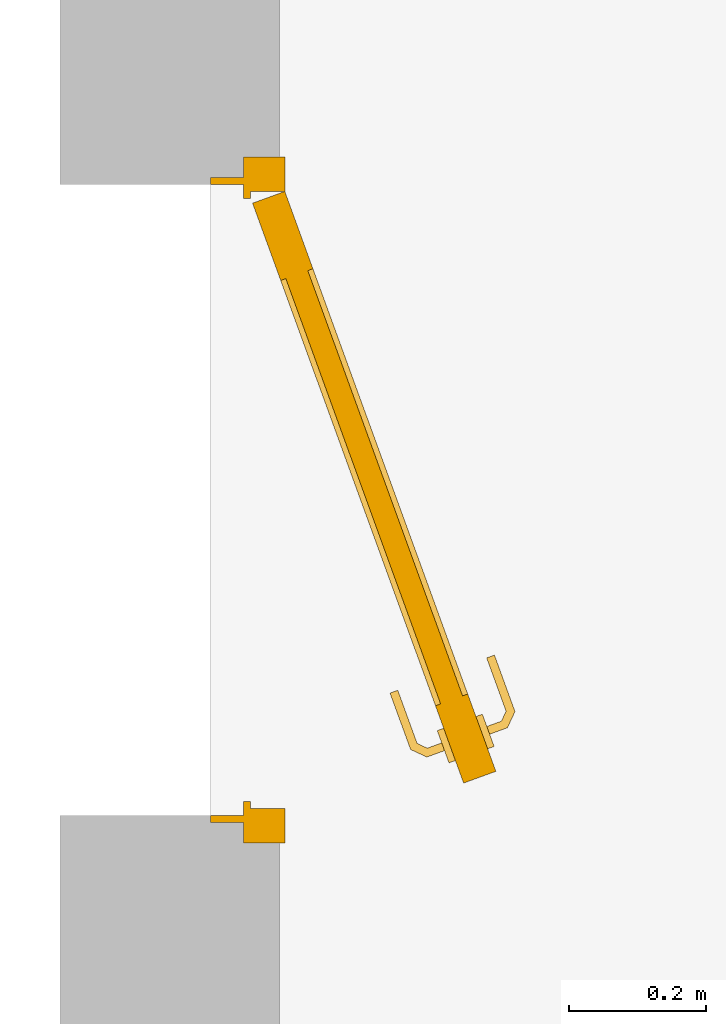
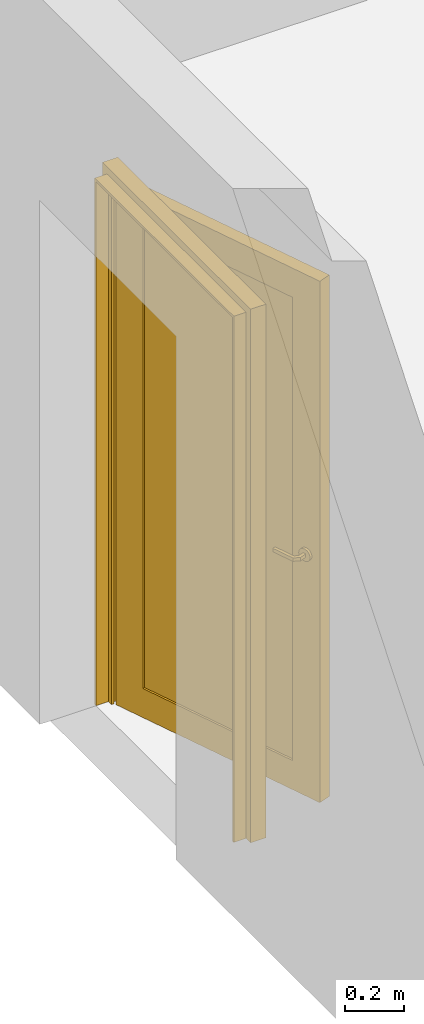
# One storey, part 4 of 4: 1 door.
"""IFC2X3 building model written with IfcOpenShell, lengths in metres."""

from ifc_helpers import new_model, entity, si_unit, converted_unit, derived_unit, direction, frame, origin, place, context, subcontext, project, spatial, faceted_brep, source, transform, mapped, material, type_object, type_shapes, element, save


model = new_model("IFC2X3")

# Units and contexts
model_context = context("Model", 3, precision=1e-05, world=origin(), true_north=direction((6.12303176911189e-17, 1.0)))
context_of_model = context(None, 3, precision=1e-05, world=origin(), true_north=direction((6.12303176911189e-17, 1.0)))
body_context = subcontext(model_context, "Body", "Model", "MODEL_VIEW")
ifc_project = project(units=[si_unit("LENGTHUNIT", "METRE"), si_unit("AREAUNIT", "SQUARE_METRE"), si_unit("VOLUMEUNIT", "CUBIC_METRE"), converted_unit("PLANEANGLEUNIT", "DEGREE", entity("IfcRatioMeasure", 0.0174532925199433), si_unit("PLANEANGLEUNIT", "RADIAN"), dimensions=[0, 0, 0, 0, 0, 0, 0]), si_unit("MASSUNIT", "GRAM", prefix="KILO"), si_unit("TIMEUNIT", "SECOND"), si_unit("FREQUENCYUNIT", "HERTZ"), si_unit("THERMODYNAMICTEMPERATUREUNIT", "DEGREE_CELSIUS"), derived_unit("THERMALTRANSMITTANCEUNIT", [(si_unit("MASSUNIT", "GRAM", prefix="KILO"), 1), (si_unit("THERMODYNAMICTEMPERATUREUNIT", "KELVIN"), -1), (si_unit("TIMEUNIT", "SECOND"), -3)]), derived_unit("VOLUMETRICFLOWRATEUNIT", [(si_unit("LENGTHUNIT", "METRE"), 3), (si_unit("TIMEUNIT", "SECOND"), -1)]), si_unit("ELECTRICCURRENTUNIT", "AMPERE"), si_unit("ELECTRICVOLTAGEUNIT", "VOLT"), si_unit("POWERUNIT", "WATT"), si_unit("FORCEUNIT", "NEWTON", prefix="KILO"), si_unit("ILLUMINANCEUNIT", "LUX"), si_unit("LUMINOUSFLUXUNIT", "LUMEN"), si_unit("LUMINOUSINTENSITYUNIT", "CANDELA"), si_unit("PRESSUREUNIT", "PASCAL")], contexts=[model_context, context_of_model])

# Site, building, storey
site_placement = place(None, origin())
site = spatial("IfcSite", under=ifc_project, at=site_placement, Name="Default", CompositionType="ELEMENT")
building_placement = place(site_placement, origin())
building = spatial("IfcBuilding", under=site, at=building_placement, CompositionType="ELEMENT")
storey_placement = place(building_placement, origin())
storey = spatial("IfcBuildingStorey", under=building, at=storey_placement, Name="Niveau 0", CompositionType="ELEMENT", Elevation=-1.94916083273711e-14)

# Door
ifc_material = material(Name="PVC - Blanc")
door_style = type_object("IfcDoorStyle", Name="Lisse - 0.90 m x 2.15 m", ConstructionType="NOTDEFINED", OperationType="SINGLE_SWING_RIGHT", ParameterTakesPrecedence=False, Sizeable=False, material=ifc_material)
shared_shape = source(origin(), body_context, "Body", "Brep", [
    faceted_brep([(0.170158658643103, -0.922480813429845, 0.975851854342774), (0.175824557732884, -0.920418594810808, 0.97834936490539), (0.180689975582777, -0.91864772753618, 0.982322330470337), (0.184423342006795, -0.917288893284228, 0.9875), (0.18677023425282, -0.916434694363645, 0.993529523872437), (0.187570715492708, -0.916143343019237, 1.0), (0.18677023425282, -0.916434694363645, 1.00647047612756), (0.184423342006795, -0.917288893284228, 1.0125), (0.180689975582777, -0.91864772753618, 1.01767766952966), (0.175824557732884, -0.920418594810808, 1.02165063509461), (0.170158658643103, -0.922480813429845, 1.02414814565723), (0.164078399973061, -0.924693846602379, 1.025), (0.157998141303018, -0.926906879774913, 1.02414814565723), (0.152332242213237, -0.92896909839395, 1.02165063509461), (0.147466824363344, -0.930739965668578, 1.01767766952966), (0.143733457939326, -0.932098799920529, 1.0125), (0.141386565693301, -0.932952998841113, 1.00647047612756), (0.140586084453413, -0.933244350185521, 1.0), (0.141386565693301, -0.932952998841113, 0.993529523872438), (0.143733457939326, -0.93209879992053, 0.987500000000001), (0.147466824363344, -0.930739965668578, 0.982322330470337), (0.152332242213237, -0.92896909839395, 0.97834936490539), (0.157998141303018, -0.926906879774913, 0.975851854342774), (0.16407839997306, -0.924693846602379, 0.975000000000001), (0.166738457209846, -0.913083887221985, 1.02414814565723), (0.172404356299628, -0.911021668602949, 1.02165063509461), (0.177269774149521, -0.909250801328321, 1.01767766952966), (0.181003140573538, -0.907891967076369, 1.0125), (0.183350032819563, -0.907037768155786, 1.00647047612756), (0.184150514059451, -0.906746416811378, 1.0), (0.183350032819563, -0.907037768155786, 0.993529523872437), (0.181003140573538, -0.907891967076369, 0.9875), (0.17726977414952, -0.909250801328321, 0.982322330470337), (0.172404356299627, -0.911021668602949, 0.97834936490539), (0.166738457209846, -0.913083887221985, 0.975851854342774), (0.160658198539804, -0.91529692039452, 0.975000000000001), (0.154577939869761, -0.917509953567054, 0.975851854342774), (0.14891204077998, -0.919572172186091, 0.97834936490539), (0.144046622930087, -0.921343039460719, 0.982322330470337), (0.140313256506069, -0.92270187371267, 0.987500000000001), (0.137966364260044, -0.923556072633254, 0.993529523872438), (0.137165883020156, -0.923847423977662, 1.0), (0.137966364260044, -0.923556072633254, 1.00647047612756), (0.140313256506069, -0.92270187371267, 1.0125), (0.144046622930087, -0.921343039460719, 1.01767766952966), (0.14891204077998, -0.919572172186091, 1.02165063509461), (0.154577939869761, -0.917509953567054, 1.02414814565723), (0.160658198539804, -0.91529692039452, 1.025)], [[[0, 1, 2, 3, 4, 5, 6, 7, 8, 9, 10, 11, 12, 13, 14, 15, 16, 17, 18, 19, 20, 21, 22, 23]], [[24, 25, 26, 27, 28, 29, 30, 31, 32, 33, 34, 35, 36, 37, 38, 39, 40, 41, 42, 43, 44, 45, 46, 47]], [[40, 18, 17, 41]], [[39, 19, 18, 40]], [[21, 20, 38, 37]], [[39, 38, 20, 19]], [[22, 21, 37, 36]], [[23, 22, 36, 35]], [[34, 0, 23, 35]], [[33, 1, 0, 34]], [[3, 2, 32, 31]], [[33, 32, 2, 1]], [[4, 3, 31, 30]], [[5, 4, 30, 29]], [[28, 6, 5, 29]], [[27, 7, 6, 28]], [[9, 8, 26, 25]], [[27, 26, 8, 7]], [[10, 9, 25, 24]], [[11, 10, 24, 47]], [[46, 12, 11, 47]], [[45, 13, 12, 46]], [[15, 14, 44, 43]], [[45, 44, 14, 13]], [[16, 15, 43, 42]], [[17, 16, 42, 41]]]),
    faceted_brep([(0.149637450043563, -0.86609925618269, 0.975851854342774), (0.155303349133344, -0.864037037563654, 0.97834936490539), (0.160168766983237, -0.862266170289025, 0.982322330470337), (0.163902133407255, -0.860907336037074, 0.9875), (0.16624902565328, -0.860053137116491, 0.993529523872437), (0.167049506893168, -0.859761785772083, 1.0), (0.16624902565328, -0.86005313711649, 1.00647047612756), (0.163902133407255, -0.860907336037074, 1.0125), (0.160168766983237, -0.862266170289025, 1.01767766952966), (0.155303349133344, -0.864037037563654, 1.02165063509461), (0.149637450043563, -0.86609925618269, 1.02414814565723), (0.14355719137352, -0.868312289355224, 1.025), (0.137476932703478, -0.870525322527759, 1.02414814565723), (0.131811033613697, -0.872587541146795, 1.02165063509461), (0.126945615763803, -0.874358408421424, 1.01767766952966), (0.123212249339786, -0.875717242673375, 1.0125), (0.120865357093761, -0.876571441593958, 1.00647047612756), (0.120064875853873, -0.876862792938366, 1.0), (0.120865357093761, -0.876571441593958, 0.993529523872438), (0.123212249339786, -0.875717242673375, 0.987500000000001), (0.126945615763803, -0.874358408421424, 0.982322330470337), (0.131811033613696, -0.872587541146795, 0.97834936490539), (0.137476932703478, -0.870525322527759, 0.975851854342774), (0.14355719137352, -0.868312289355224, 0.975000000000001), (0.146217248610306, -0.856702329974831, 1.02414814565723), (0.151883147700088, -0.854640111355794, 1.02165063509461), (0.156748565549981, -0.852869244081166, 1.01767766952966), (0.160481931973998, -0.851510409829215, 1.0125), (0.162828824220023, -0.850656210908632, 1.00647047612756), (0.163629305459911, -0.850364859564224, 1.0), (0.162828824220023, -0.850656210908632, 0.993529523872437), (0.160481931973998, -0.851510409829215, 0.9875), (0.15674856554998, -0.852869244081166, 0.982322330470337), (0.151883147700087, -0.854640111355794, 0.97834936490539), (0.146217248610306, -0.856702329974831, 0.975851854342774), (0.140136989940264, -0.858915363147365, 0.975000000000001), (0.134056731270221, -0.8611283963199, 0.975851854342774), (0.12839083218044, -0.863190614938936, 0.97834936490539), (0.123525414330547, -0.864961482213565, 0.982322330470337), (0.119792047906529, -0.866320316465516, 0.987500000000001), (0.117445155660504, -0.867174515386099, 0.993529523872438), (0.116644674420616, -0.867465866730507, 1.0), (0.117445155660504, -0.867174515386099, 1.00647047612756), (0.119792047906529, -0.866320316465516, 1.0125), (0.123525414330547, -0.864961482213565, 1.01767766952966), (0.12839083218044, -0.863190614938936, 1.02165063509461), (0.134056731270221, -0.8611283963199, 1.02414814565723), (0.140136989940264, -0.858915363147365, 1.025)], [[[0, 1, 2, 3, 4, 5, 6, 7, 8, 9, 10, 11, 12, 13, 14, 15, 16, 17, 18, 19, 20, 21, 22, 23]], [[24, 25, 26, 27, 28, 29, 30, 31, 32, 33, 34, 35, 36, 37, 38, 39, 40, 41, 42, 43, 44, 45, 46, 47]], [[40, 18, 17, 41]], [[39, 19, 18, 40]], [[21, 20, 38, 37]], [[39, 38, 20, 19]], [[22, 21, 37, 36]], [[23, 22, 36, 35]], [[34, 0, 23, 35]], [[33, 1, 0, 34]], [[3, 2, 32, 31]], [[33, 32, 2, 1]], [[4, 3, 31, 30]], [[5, 4, 30, 29]], [[28, 6, 5, 29]], [[27, 7, 6, 28]], [[9, 8, 26, 25]], [[27, 26, 8, 7]], [[10, 9, 25, 24]], [[11, 10, 24, 47]], [[46, 12, 11, 47]], [[45, 13, 12, 46]], [[15, 14, 44, 43]], [[45, 44, 14, 13]], [[16, 15, 43, 42]], [[17, 16, 42, 41]]]),
    faceted_brep([(0.162175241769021, -0.925386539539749, 1.00778044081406), (0.16598155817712, -0.924001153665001, 1.00778044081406), (0.1697165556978, -0.922641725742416, 1.007), (0.169716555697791, -0.922641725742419, 0.99300000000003), (0.165981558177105, -0.924001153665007, 0.992219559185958), (0.162175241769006, -0.925386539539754, 0.992219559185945), (0.158440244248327, -0.926745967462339, 0.992999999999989), (0.158440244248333, -0.926745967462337, 1.007), (0.167897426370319, -0.952729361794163, 1.007), (0.171069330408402, -0.949822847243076, 1.00778044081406), (0.191639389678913, -0.959414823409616, 1.00778044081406), (0.191830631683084, -0.955034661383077, 1.00778044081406), (0.174301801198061, -0.946860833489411, 1.00778044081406), (0.177473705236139, -0.943954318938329, 1.007), (0.177473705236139, -0.943954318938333, 0.99300000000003), (0.174301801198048, -0.946860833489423, 0.992219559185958), (0.191830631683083, -0.955034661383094, 0.992219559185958), (0.191639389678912, -0.959414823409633, 0.992219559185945), (0.17106933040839, -0.949822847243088, 0.992219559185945), (0.167897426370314, -0.952729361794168, 0.99299999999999), (0.191451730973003, -0.963712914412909, 1.007), (0.192018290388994, -0.950736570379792, 1.007), (0.192018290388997, -0.950736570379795, 0.99300000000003), (0.191451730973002, -0.963712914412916, 0.99299999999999), (0.273807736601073, -0.933737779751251, 0.992999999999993), (0.272448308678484, -0.93000278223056, 0.992219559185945), (0.271062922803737, -0.926196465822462, 0.992219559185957), (0.269703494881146, -0.922461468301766, 0.993000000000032), (0.269703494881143, -0.922461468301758, 1.007), (0.271062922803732, -0.926196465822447, 1.00778044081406), (0.272448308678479, -0.930002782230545, 1.00778044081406), (0.273807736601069, -0.93373777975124, 1.00699999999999), (0.228974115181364, -0.95005588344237, 1.007), (0.232139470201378, -0.942518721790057, 1.0078786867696), (0.23086089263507, -0.936599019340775, 1.007), (0.230860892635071, -0.93659901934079, 0.99300000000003), (0.232139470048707, -0.942518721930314, 0.992121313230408), (0.228974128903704, -0.950055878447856, 0.992999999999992)], [[[0, 1, 2, 3, 4, 5, 6, 7]], [[8, 9, 0, 7]], [[9, 10, 11, 12, 1, 0]], [[12, 13, 2, 1]], [[3, 2, 13, 14]], [[14, 15, 4, 3]], [[15, 16, 17, 18, 5, 4]], [[18, 19, 6, 5]], [[7, 6, 19, 8]], [[20, 10, 9, 8]], [[11, 21, 13, 12]], [[14, 13, 21, 22]], [[22, 16, 15, 14]], [[17, 23, 19, 18]], [[8, 19, 23, 20]], [[24, 25, 26, 27, 28, 29, 30, 31]], [[32, 30, 33]], [[31, 30, 32]], [[10, 20, 32]], [[33, 34, 11]], [[21, 11, 34]], [[34, 29, 28]], [[30, 29, 33]], [[29, 34, 33]], [[10, 32, 33]], [[10, 33, 11]], [[22, 21, 34, 28, 27, 35]], [[35, 26, 36]], [[37, 36, 25]], [[22, 35, 16]], [[35, 27, 26]], [[24, 37, 25]], [[23, 17, 37]], [[37, 17, 36]], [[17, 16, 36]], [[16, 35, 36]], [[25, 36, 26]], [[20, 23, 37, 24, 31, 32]]]),
    faceted_brep([(0.138233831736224, -0.859608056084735, 1.00778044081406), (0.13449883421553, -0.860967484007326, 1.007), (0.134498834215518, -0.86096748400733, 0.992999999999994), (0.138233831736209, -0.859608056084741, 0.992219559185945), (0.142040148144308, -0.858222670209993, 0.992219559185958), (0.145775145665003, -0.856863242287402, 0.993000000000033), (0.145775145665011, -0.856863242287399, 1.007), (0.142040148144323, -0.858222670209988, 1.00778044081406), (0.138084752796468, -0.835734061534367, 0.993000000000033), (0.138084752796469, -0.83573406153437, 1.007), (0.133786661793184, -0.835546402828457, 1.00778044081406), (0.142042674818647, -0.817841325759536, 1.00778044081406), (0.139080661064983, -0.814608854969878, 1.00778044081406), (0.129406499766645, -0.835355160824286, 1.00778044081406), (0.125108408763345, -0.835167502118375, 1.007), (0.125108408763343, -0.83516750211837, 0.992999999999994), (0.129406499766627, -0.835355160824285, 0.992219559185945), (0.13908066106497, -0.814608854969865, 0.992219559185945), (0.142042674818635, -0.817841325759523, 0.992219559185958), (0.133786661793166, -0.835546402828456, 0.992219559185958), (0.144949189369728, -0.821013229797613, 0.993000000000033), (0.144949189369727, -0.821013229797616, 1.007), (0.13617414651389, -0.811436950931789, 1.007), (0.136174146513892, -0.811436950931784, 0.992999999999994), (0.222530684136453, -0.792775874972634, 0.993000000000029), (0.221171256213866, -0.789040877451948, 0.992219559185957), (0.219785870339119, -0.78523456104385, 0.992219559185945), (0.218426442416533, -0.78149956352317, 0.99299999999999), (0.218426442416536, -0.781499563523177, 1.007), (0.219785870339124, -0.785234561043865, 1.00778044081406), (0.221171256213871, -0.789040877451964, 1.00778044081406), (0.222530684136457, -0.792775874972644, 1.007), (0.183739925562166, -0.806894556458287, 0.993000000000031), (0.183739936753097, -0.806894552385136, 1.007), (0.180914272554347, -0.801537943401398, 1.0078786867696), (0.173696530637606, -0.797779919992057, 1.007), (0.173696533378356, -0.797779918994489, 0.992999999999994), (0.180914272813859, -0.801537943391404, 0.992121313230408)], [[[0, 1, 2, 3, 4, 5, 6, 7]], [[6, 5, 8, 9]], [[9, 10, 7, 6]], [[10, 11, 12, 13, 0, 7]], [[13, 14, 1, 0]], [[2, 1, 14, 15]], [[15, 16, 3, 2]], [[16, 17, 18, 19, 4, 3]], [[19, 8, 5, 4]], [[9, 8, 20, 21]], [[21, 11, 10, 9]], [[12, 22, 14, 13]], [[15, 14, 22, 23]], [[23, 17, 16, 15]], [[18, 20, 8, 19]], [[24, 25, 26, 27, 28, 29, 30, 31]], [[21, 20, 32, 24, 31, 33]], [[33, 30, 34]], [[35, 34, 29]], [[21, 33, 11]], [[33, 31, 30]], [[28, 35, 29]], [[22, 12, 35]], [[35, 12, 34]], [[12, 11, 34]], [[11, 33, 34]], [[29, 34, 30]], [[22, 35, 28, 27, 36, 23]], [[36, 26, 37]], [[27, 26, 36]], [[17, 23, 36]], [[37, 32, 18]], [[20, 18, 32]], [[32, 25, 24]], [[26, 25, 37]], [[25, 32, 37]], [[17, 36, 37]], [[17, 37, 18]]]),
    faceted_brep([(0.0871756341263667, -0.888833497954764, 2.15), (0.932898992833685, -0.581015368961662, 2.15), (0.932898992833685, -0.581015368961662, 0.0), (0.0871756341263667, -0.888833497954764, 0.0), (0.199938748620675, -0.847791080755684, 2.03), (0.199938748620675, -0.847791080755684, 0.12), (0.820135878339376, -0.622057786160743, 0.12), (0.820135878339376, -0.622057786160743, 2.03), (0.10427664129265, -0.935818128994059, 2.15), (0.10427664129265, -0.935818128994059, 0.0), (0.949999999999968, -0.628000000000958, 0.0), (0.949999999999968, -0.628000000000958, 2.15), (0.837236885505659, -0.669042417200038, 2.03), (0.837236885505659, -0.669042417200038, 0.12), (0.217039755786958, -0.89477571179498, 0.12), (0.217039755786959, -0.89477571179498, 2.03), (0.834500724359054, -0.661524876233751, 2.03), (0.214303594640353, -0.887258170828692, 2.03), (0.214303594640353, -0.887258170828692, 0.12), (0.834500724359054, -0.661524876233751, 0.12), (0.202674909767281, -0.855308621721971, 2.03), (0.822872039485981, -0.62957532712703, 2.03), (0.822872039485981, -0.62957532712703, 0.12), (0.202674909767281, -0.855308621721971, 0.12)], [[[0, 1, 2, 3], [4, 5, 6, 7]], [[8, 9, 10, 11], [12, 13, 14, 15]], [[1, 0, 8, 11]], [[2, 1, 11, 10]], [[3, 2, 10, 9]], [[0, 3, 9, 8]], [[16, 17, 18, 19]], [[16, 19, 13, 12]], [[19, 18, 14, 13]], [[18, 17, 15, 14]], [[17, 16, 12, 15]], [[20, 21, 22, 23]], [[20, 23, 5, 4]], [[23, 22, 6, 5]], [[22, 21, 7, 6]], [[21, 20, 4, 7]]]),
    faceted_brep([(0.0, -0.568000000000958, 0.0), (0.0300000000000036, -0.568000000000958, 0.0), (0.0300000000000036, -0.520000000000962, 0.0), (0.0400000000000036, -0.520000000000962, 0.0), (0.0400000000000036, -0.568000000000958, 0.0), (0.0599999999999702, -0.568000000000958, 0.0), (0.0599999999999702, -0.578000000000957, 0.0), (0.0499999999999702, -0.578000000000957, 0.0), (0.0499999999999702, -0.628000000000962, 0.0), (0.0, -0.628000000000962, 0.0), (0.0, -0.568000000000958, 2.20000000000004), (1.0, -0.568000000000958, 2.20000000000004), (1.0, -0.568000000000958, 0.0), (0.970000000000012, -0.568000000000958, 0.0), (0.970000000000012, -0.568000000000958, 2.17), (0.0300000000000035, -0.568000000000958, 2.17), (0.0300000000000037, -0.520000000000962, 2.17), (0.970000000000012, -0.520000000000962, 2.17), (0.970000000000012, -0.520000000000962, 0.0), (0.960000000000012, -0.520000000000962, 0.0), (0.960000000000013, -0.520000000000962, 2.16), (0.0400000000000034, -0.520000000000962, 2.16), (0.0400000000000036, -0.568000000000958, 2.16), (0.960000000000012, -0.568000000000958, 2.16), (0.960000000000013, -0.568000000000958, 0.0), (0.940000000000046, -0.568000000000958, 0.0), (0.940000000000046, -0.568000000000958, 2.14000000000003), (0.0599999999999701, -0.568000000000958, 2.14000000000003), (0.0599999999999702, -0.578000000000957, 2.14000000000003), (0.940000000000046, -0.578000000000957, 2.14000000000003), (0.940000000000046, -0.578000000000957, 0.0), (0.950000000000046, -0.578000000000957, 0.0), (0.950000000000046, -0.578000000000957, 2.15000000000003), (0.04999999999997, -0.578000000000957, 2.15000000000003), (0.0499999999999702, -0.628000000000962, 2.15000000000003), (0.950000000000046, -0.628000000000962, 2.15000000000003), (0.950000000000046, -0.628000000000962, 0.0), (1.0, -0.628000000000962, 0.0), (1.0, -0.628000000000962, 2.20000000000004), (0.0, -0.628000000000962, 2.20000000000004)], [[[0, 1, 2, 3, 4, 5, 6, 7, 8, 9]], [[1, 0, 10, 11, 12, 13, 14, 15]], [[2, 1, 15, 16]], [[3, 2, 16, 17, 18, 19, 20, 21]], [[4, 3, 21, 22]], [[5, 4, 22, 23, 24, 25, 26, 27]], [[6, 5, 27, 28]], [[7, 6, 28, 29, 30, 31, 32, 33]], [[8, 7, 33, 34]], [[9, 8, 34, 35, 36, 37, 38, 39]], [[0, 9, 39, 10]], [[11, 38, 37, 12]], [[12, 37, 36, 31, 30, 25, 24, 19, 18, 13]], [[17, 14, 13, 18]], [[23, 20, 19, 24]], [[29, 26, 25, 30]], [[35, 32, 31, 36]], [[16, 15, 14, 17]], [[22, 21, 20, 23]], [[28, 27, 26, 29]], [[34, 33, 32, 35]], [[10, 39, 38, 11]]]),
])
type_shapes(door_style, [shared_shape])
door_placement = place(storey_placement, frame((-9.76242592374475, 0.795386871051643, 0.0), z_axis=(0.0, 0.0, 1.0), x_axis=(0.0, 1.0, 0.0)))
element("IfcDoor", 1, at=door_placement, inside=storey, type_object=door_style, material=ifc_material, Name="Ext. Simple:Lisse - 0.90 m x 2.15 m", ObjectType="Lisse - 0.90 m x 2.15 m", OverallHeight=2.20000000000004, OverallWidth=1.00000000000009, context=body_context, shape_type="MappedRepresentation", body=[
    mapped(shared_shape, transform((0.0, 0.0, 0.0), scale=1.0)),
])

save(model, "model.ifc")
